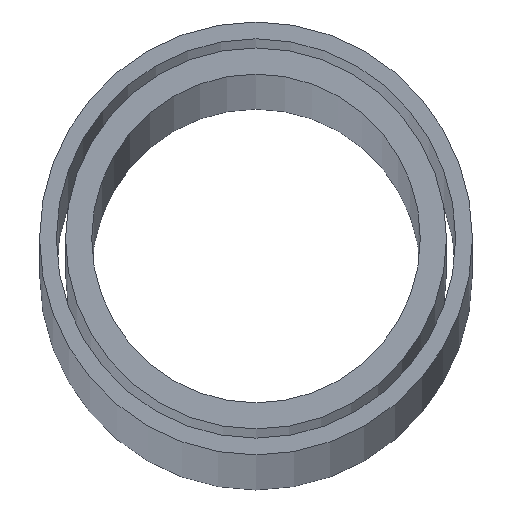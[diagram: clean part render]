
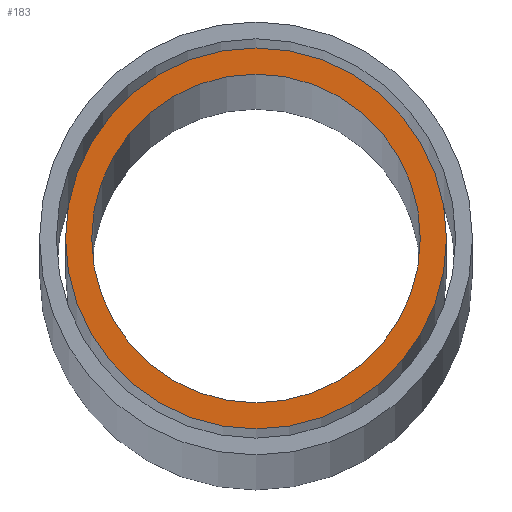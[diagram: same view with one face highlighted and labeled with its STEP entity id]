
A CAD part, top view. The second image highlights one B-rep face of the part: STEP entity #183.
In plain terms, the highlighted planar face has unit normal (0, 0, 1).
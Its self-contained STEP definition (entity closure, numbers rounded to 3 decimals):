
#1 = CIRCLE ( 'NONE', #203, 55. ) ;
#2 = ORIENTED_EDGE ( 'NONE', *, *, #387, .F. ) ;
#7 = CIRCLE ( 'NONE', #245, 55. ) ;
#26 = DIRECTION ( 'NONE',  ( 1., 0., 0. ) ) ;
#40 = VERTEX_POINT ( 'NONE', #184 ) ;
#43 = ORIENTED_EDGE ( 'NONE', *, *, #117, .F. ) ;
#44 = VERTEX_POINT ( 'NONE', #273 ) ;
#55 = DIRECTION ( 'NONE',  ( 0., 0., 1. ) ) ;
#72 = CARTESIAN_POINT ( 'NONE',  ( 0., 0., 5800. ) ) ;
#79 = EDGE_CURVE ( 'NONE', #44, #231, #1, .T. ) ;
#80 = DIRECTION ( 'NONE',  ( 0., 0., 1. ) ) ;
#86 = VERTEX_POINT ( 'NONE', #220 ) ;
#100 = FACE_BOUND ( 'NONE', #120, .T. ) ;
#116 = CIRCLE ( 'NONE', #337, 47.45 ) ;
#117 = EDGE_CURVE ( 'NONE', #86, #40, #241, .T. ) ;
#120 = EDGE_LOOP ( 'NONE', ( #2, #43 ) ) ;
#155 = DIRECTION ( 'NONE',  ( 1., 0., 0. ) ) ;
#165 = CARTESIAN_POINT ( 'NONE',  ( 55., 0., 5800. ) ) ;
#183 = ADVANCED_FACE ( 'NONE', ( #221, #100 ), #384, .T. ) ;
#184 = CARTESIAN_POINT ( 'NONE',  ( -47.45, 0., 5800. ) ) ;
#188 = CARTESIAN_POINT ( 'NONE',  ( 0., 0., 5800. ) ) ;
#191 = DIRECTION ( 'NONE',  ( 0., 0., 1. ) ) ;
#201 = DIRECTION ( 'NONE',  ( 0., 0., 1. ) ) ;
#203 = AXIS2_PLACEMENT_3D ( 'NONE', #72, #317, #155 ) ;
#205 = ORIENTED_EDGE ( 'NONE', *, *, #79, .T. ) ;
#211 = ORIENTED_EDGE ( 'NONE', *, *, #238, .T. ) ;
#220 = CARTESIAN_POINT ( 'NONE',  ( 47.45, 0., 5800. ) ) ;
#221 = FACE_OUTER_BOUND ( 'NONE', #246, .T. ) ;
#231 = VERTEX_POINT ( 'NONE', #165 ) ;
#234 = DIRECTION ( 'NONE',  ( 1., 0., 0. ) ) ;
#238 = EDGE_CURVE ( 'NONE', #231, #44, #7, .T. ) ;
#241 = CIRCLE ( 'NONE', #376, 47.45 ) ;
#245 = AXIS2_PLACEMENT_3D ( 'NONE', #292, #55, #26 ) ;
#246 = EDGE_LOOP ( 'NONE', ( #205, #211 ) ) ;
#253 = DIRECTION ( 'NONE',  ( 1., 0., 0. ) ) ;
#273 = CARTESIAN_POINT ( 'NONE',  ( -55., 0., 5800. ) ) ;
#279 = CARTESIAN_POINT ( 'NONE',  ( 0., 0., 5800. ) ) ;
#292 = CARTESIAN_POINT ( 'NONE',  ( 0., 0., 5800. ) ) ;
#294 = AXIS2_PLACEMENT_3D ( 'NONE', #188, #191, #315 ) ;
#297 = CARTESIAN_POINT ( 'NONE',  ( 0., 0., 5800. ) ) ;
#315 = DIRECTION ( 'NONE',  ( 1., 0., 0. ) ) ;
#317 = DIRECTION ( 'NONE',  ( 0., 0., 1. ) ) ;
#337 = AXIS2_PLACEMENT_3D ( 'NONE', #297, #201, #234 ) ;
#376 = AXIS2_PLACEMENT_3D ( 'NONE', #279, #80, #253 ) ;
#384 = PLANE ( 'NONE',  #294 ) ;
#387 = EDGE_CURVE ( 'NONE', #40, #86, #116, .T. ) ;
